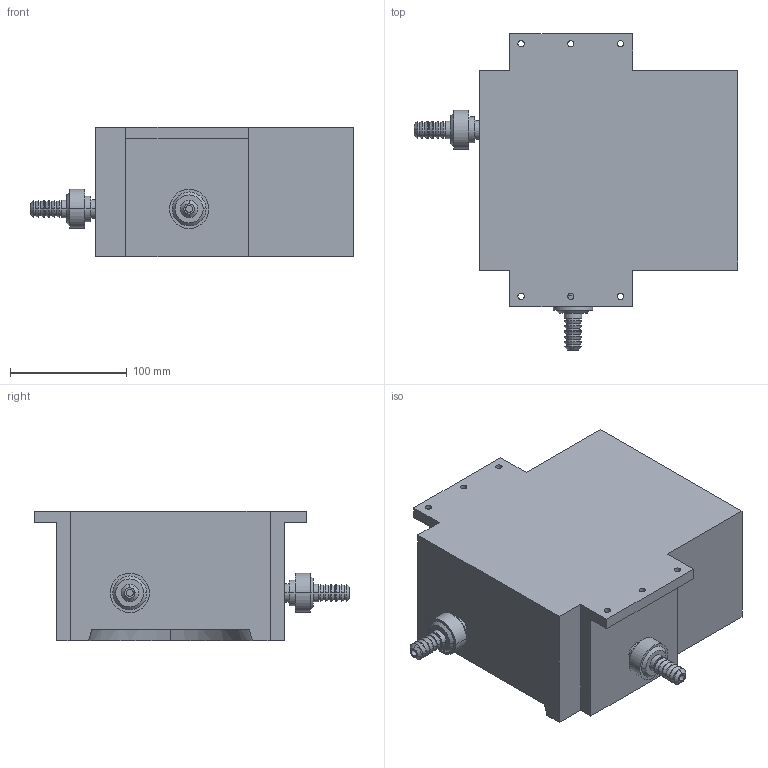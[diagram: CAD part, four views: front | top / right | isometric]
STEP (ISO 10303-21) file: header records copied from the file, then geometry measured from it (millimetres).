
FILE_DESCRIPTION (( 'STEP AP214' ), '1' );
FILE_NAME ('LPV415_TD_00000__001.STEP', '2013-11-25T13:59:29', ( 'helpdesk' ), ( 'Hach-Lange' ), 'SwSTEP 2.0', 'SolidWorks 2012', '' );
FILE_SCHEMA (( 'AUTOMOTIVE_DESIGN' ));
Length unit declared in the file: millimetre
Products named in the file (1): LPV415_TD_00000__001
Bounding box: 277 x 270.2 x 111 mm (x, y, z)
Volume: 4055361.5 mm3; surface area: 204146.2 mm2
Topology: 1 solids, 1 shells, 159 faces, 348 edges, 218 vertices
Faces by surface type: cylinder 76, plane 51, cone 32
Entity records: 4444 total; most frequent: DIRECTION 844, CARTESIAN_POINT 732, ORIENTED_EDGE 696, EDGE_CURVE 348, AXIS2_PLACEMENT_3D 338, VERTEX_POINT 218, EDGE_LOOP 198, CIRCLE 178
